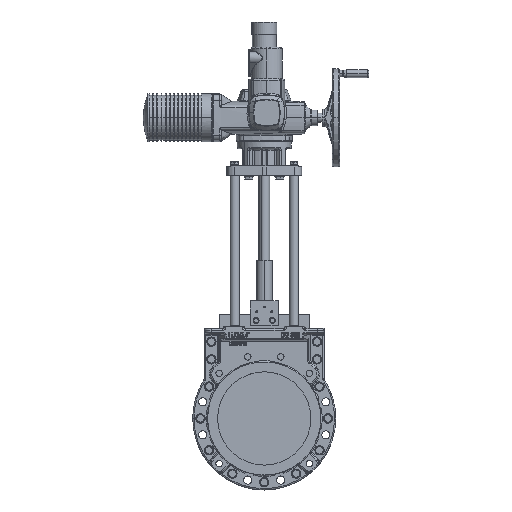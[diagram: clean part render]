
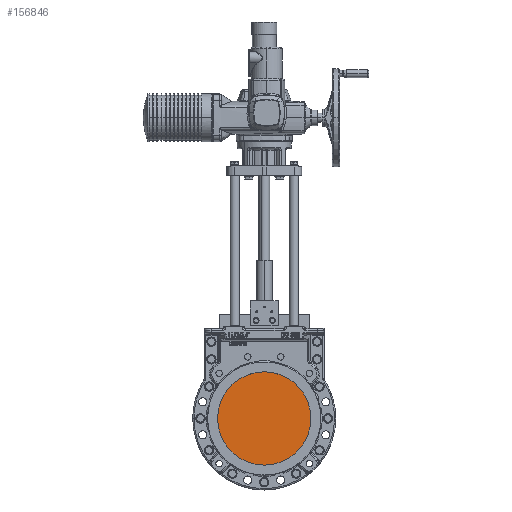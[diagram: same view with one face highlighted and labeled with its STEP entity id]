
A CAD part, top view. The second image highlights one B-rep face of the part: STEP entity #156846.
In plain terms, the highlighted planar face has unit normal (0, 0, 1).
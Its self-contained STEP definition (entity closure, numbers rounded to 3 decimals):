
#5039 = ORIENTED_EDGE ( 'NONE', *, *, #148572, .T. ) ;
#6130 = CARTESIAN_POINT ( 'NONE',  ( -150., 0., -0.25 ) ) ;
#9800 = DIRECTION ( 'NONE',  ( 0., 0., 1. ) ) ;
#10010 = VERTEX_POINT ( 'NONE', #36988 ) ;
#22919 = DIRECTION ( 'NONE',  ( 0., 0., 1. ) ) ;
#35321 = VERTEX_POINT ( 'NONE', #6130 ) ;
#36988 = CARTESIAN_POINT ( 'NONE',  ( 150., 0., -0.25 ) ) ;
#54307 = DIRECTION ( 'NONE',  ( 0., 0., 1. ) ) ;
#73779 = EDGE_LOOP ( 'NONE', ( #5039, #74369 ) ) ;
#74369 = ORIENTED_EDGE ( 'NONE', *, *, #83030, .T. ) ;
#83030 = EDGE_CURVE ( 'NONE', #10010, #35321, #125697, .T. ) ;
#86125 = AXIS2_PLACEMENT_3D ( 'NONE', #97652, #22919, #110118 ) ;
#92129 = CIRCLE ( 'NONE', #156030, 150. ) ;
#97080 = DIRECTION ( 'NONE',  ( 1., 0., 0. ) ) ;
#97652 = CARTESIAN_POINT ( 'NONE',  ( 0., 0., -0.25 ) ) ;
#107210 = FACE_OUTER_BOUND ( 'NONE', #73779, .T. ) ;
#110118 = DIRECTION ( 'NONE',  ( 1., 0., 0. ) ) ;
#125697 = CIRCLE ( 'NONE', #86125, 150. ) ;
#128854 = CARTESIAN_POINT ( 'NONE',  ( 0., 0., -0.25 ) ) ;
#141351 = DIRECTION ( 'NONE',  ( 1., 0., 0. ) ) ;
#145910 = PLANE ( 'NONE',  #155733 ) ;
#148572 = EDGE_CURVE ( 'NONE', #35321, #10010, #92129, .T. ) ;
#155733 = AXIS2_PLACEMENT_3D ( 'NONE', #159050, #9800, #97080 ) ;
#156030 = AXIS2_PLACEMENT_3D ( 'NONE', #128854, #54307, #141351 ) ;
#156846 = ADVANCED_FACE ( 'NONE', ( #107210 ), #145910, .T. ) ;
#159050 = CARTESIAN_POINT ( 'NONE',  ( 0., 0., -0.25 ) ) ;
